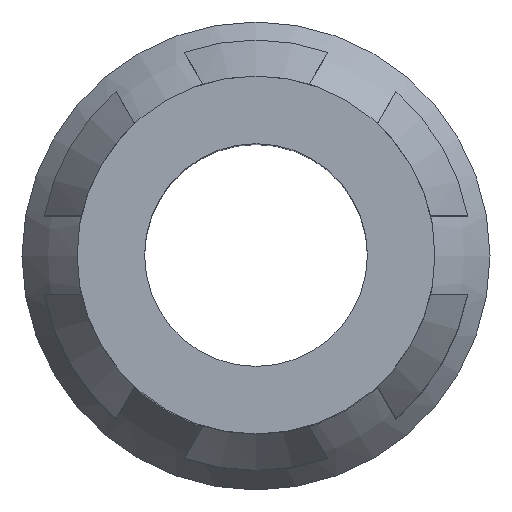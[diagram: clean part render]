
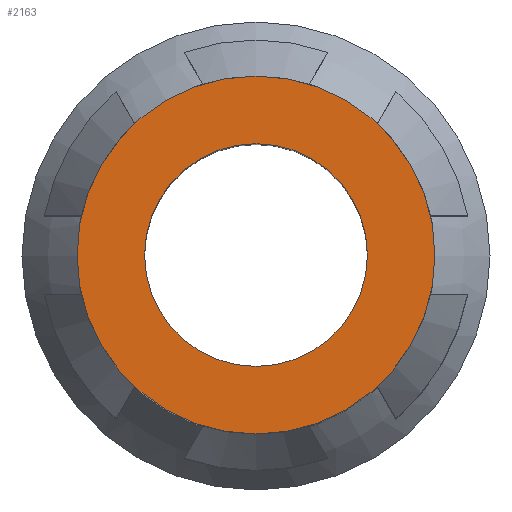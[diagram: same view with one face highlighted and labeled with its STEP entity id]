
A CAD part, top view. The second image highlights one B-rep face of the part: STEP entity #2163.
In plain terms, the highlighted planar face has unit normal (0, 0, 1).
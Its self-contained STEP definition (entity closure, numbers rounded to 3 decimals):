
#224 = DIRECTION ( 'NONE',  ( 0., 0., -1. ) ) ;
#410 = DIRECTION ( 'NONE',  ( -1., 0., 0. ) ) ;
#433 = EDGE_CURVE ( 'NONE', #1077, #1077, #1658, .T. ) ;
#697 = CARTESIAN_POINT ( 'NONE',  ( 7.871, 0., -13.16 ) ) ;
#699 = DIRECTION ( 'NONE',  ( 0., 0., -1. ) ) ;
#917 = ORIENTED_EDGE ( 'NONE', *, *, #433, .T. ) ;
#1077 = VERTEX_POINT ( 'NONE', #3068 ) ;
#1122 = EDGE_LOOP ( 'NONE', ( #917 ) ) ;
#1128 = AXIS2_PLACEMENT_3D ( 'NONE', #2527, #224, #3182 ) ;
#1252 = EDGE_LOOP ( 'NONE', ( #1743 ) ) ;
#1331 = DIRECTION ( 'NONE',  ( 0., 0., -1. ) ) ;
#1658 = CIRCLE ( 'NONE', #2976, 1.13 ) ;
#1673 = VERTEX_POINT ( 'NONE', #697 ) ;
#1743 = ORIENTED_EDGE ( 'NONE', *, *, #3047, .F. ) ;
#1911 = FACE_OUTER_BOUND ( 'NONE', #1252, .T. ) ;
#2009 = AXIS2_PLACEMENT_3D ( 'NONE', #2922, #1331, #3178 ) ;
#2163 = ADVANCED_FACE ( 'NONE', ( #3258, #1911 ), #2909, .F. ) ;
#2527 = CARTESIAN_POINT ( 'NONE',  ( 11.503, 0., -13.16 ) ) ;
#2555 = CARTESIAN_POINT ( 'NONE',  ( 9.687, 0., -13.16 ) ) ;
#2684 = CIRCLE ( 'NONE', #2009, 1.816 ) ;
#2909 = PLANE ( 'NONE',  #1128 ) ;
#2922 = CARTESIAN_POINT ( 'NONE',  ( 9.687, 0., -13.16 ) ) ;
#2976 = AXIS2_PLACEMENT_3D ( 'NONE', #2555, #699, #410 ) ;
#3047 = EDGE_CURVE ( 'NONE', #1673, #1673, #2684, .T. ) ;
#3068 = CARTESIAN_POINT ( 'NONE',  ( 8.557, 0., -13.16 ) ) ;
#3178 = DIRECTION ( 'NONE',  ( -1., 0., 0. ) ) ;
#3182 = DIRECTION ( 'NONE',  ( -1., 0., 0. ) ) ;
#3258 = FACE_BOUND ( 'NONE', #1122, .T. ) ;
